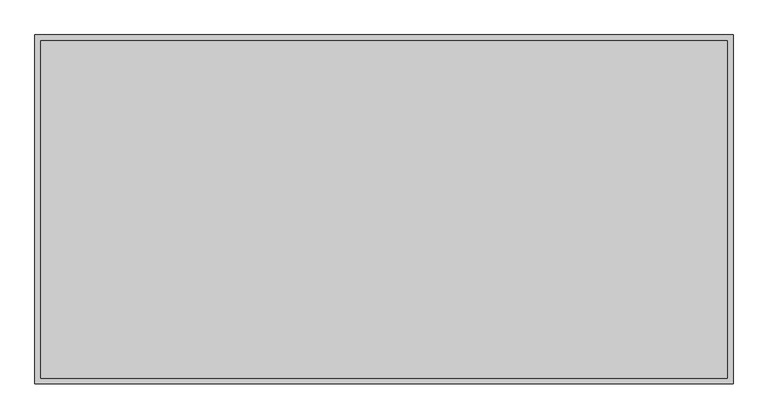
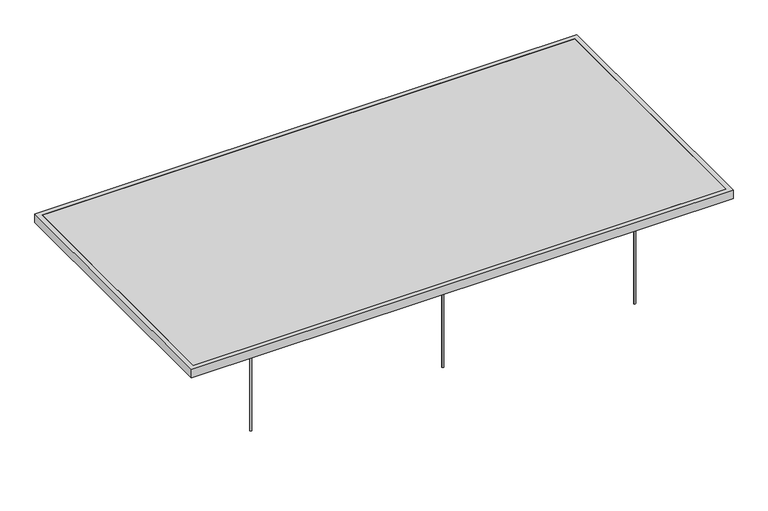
"""IFC4 building model written with IfcOpenShell, lengths in millimetres: proxy geometry, OWA Selecta Metal : Selecta Metal grande."""

import ifcopenshell
import ifcopenshell.guid

model = None  # the IFC model being written
_history = None  # IfcOwnerHistory: only IFC2X3 demands one
_inside = {}  # id of a spatial element -> (the spatial element, [elements in it])
_under = {}  # id of a project, library or spatial element -> (it, [spatial elements below it])
_declared = {}  # id of a project -> (the project, [libraries it declares])
_typed = {}  # id of a type object -> (the type object, [elements of that type])
_made_of = {}  # id of a material, layer set ... -> (it, [elements and type objects made of it])


def new_model(schema):
    """Start an empty IFC model of exactly this schema.

    Asked for "IFC4X3", IfcOpenShell would pick the latest addendum, in which some entities
    have other attributes; the version numbers below select the first issue.
    IFC2X3 requires an IfcOwnerHistory on every rooted entity: one is made here for all.
    """
    global model, _history
    if schema == "IFC4X3":
        model = ifcopenshell.file(schema_version=(4, 3, 0, 0))
    else:
        model = ifcopenshell.file(schema=schema)
    _inside.clear()
    _under.clear()
    _declared.clear()
    _typed.clear()
    _made_of.clear()
    _history = None
    if model.schema == "IFC2X3":
        org = make("IfcOrganization", Name="unknown")
        user = make(
            "IfcPersonAndOrganization",
            ThePerson=make("IfcPerson", FamilyName="unknown"),
            TheOrganization=org,
        )
        app = make(
            "IfcApplication",
            ApplicationDeveloper=org,
            Version="unknown",
            ApplicationFullName="unknown",
            ApplicationIdentifier="unknown",
        )
        _history = make(
            "IfcOwnerHistory",
            OwningUser=user,
            OwningApplication=app,
            ChangeAction="ADDED",
            CreationDate=0,
        )
    return model


def make(cls, **values):
    """One entity of the class cls with the attributes given. An attribute that is None is left unset."""
    return model.create_entity(
        cls, **{name: value for name, value in values.items() if value is not None}
    )


def rooted(cls, **values):
    """An entity with a GlobalId (a new one), such as an element, a storey or a relation."""
    return make(cls, GlobalId=ifcopenshell.guid.new(), OwnerHistory=_history, **values)


def si_unit(unit_type, name, prefix=None):
    """IfcSIUnit, for example si_unit("LENGTHUNIT", "METRE", prefix="MILLI")."""
    return make("IfcSIUnit", UnitType=unit_type, Prefix=prefix, Name=name)


def assignment(units):
    """IfcUnitAssignment: the units of a project."""
    return None if units is None else make("IfcUnitAssignment", Units=units)


def point(xyz):
    """IfcCartesianPoint."""
    return None if xyz is None else make("IfcCartesianPoint", Coordinates=xyz)


def direction(xyz):
    """IfcDirection."""
    return None if xyz is None else make("IfcDirection", DirectionRatios=xyz)


def frame(location, z_axis=None, x_axis=None):
    """IfcAxis2Placement3D, a coordinate frame: its origin and axes. An axis left out is left unset."""
    return make(
        "IfcAxis2Placement3D",
        Location=point(location),
        Axis=direction(z_axis),
        RefDirection=direction(x_axis),
    )


def frame_2d(location, x_axis=None):
    """IfcAxis2Placement2D, a coordinate frame in the plane: its origin and x axis."""
    return make(
        "IfcAxis2Placement2D", Location=point(location), RefDirection=direction(x_axis)
    )


def origin():
    """The frame at (0, 0, 0) with its axes left unset."""
    return frame((0.0, 0.0, 0.0))


def origin_with_axes():
    """The frame at (0, 0, 0) with the z axis (0, 0, 1) and the x axis (1, 0, 0) written out."""
    return frame((0.0, 0.0, 0.0), z_axis=(0.0, 0.0, 1.0), x_axis=(1.0, 0.0, 0.0))


def place(relative_to, where):
    """IfcLocalPlacement: puts the frame where relative to a parent placement (None: the world)."""
    return make(
        "IfcLocalPlacement", PlacementRelTo=relative_to, RelativePlacement=where
    )


def context(
    kind, dimensions, precision=None, world=None, true_north=None, identifier=None
):
    """IfcGeometricRepresentationContext, for example the 3D "Model" context."""
    return make(
        "IfcGeometricRepresentationContext",
        ContextIdentifier=identifier,
        ContextType=kind,
        CoordinateSpaceDimension=dimensions,
        Precision=precision,
        WorldCoordinateSystem=world,
        TrueNorth=true_north,
    )


def project(units=None, contexts=None):
    """IfcProject with its units and contexts."""
    return rooted(
        "IfcProject",
        Name="project",
        RepresentationContexts=contexts,
        UnitsInContext=assignment(units),
    )


def spatial(cls, under=None, at=None, **own):
    """A site, building, storey or space (cls), placed at a placement, below another one or the project."""
    s = rooted(cls, ObjectPlacement=at, **own)
    if under is not None:
        _under.setdefault(under.id(), (under, []))[1].append(s)
    return s


def polyline(points):
    """IfcPolyline through the points."""
    return make("IfcPolyline", Points=[point(p) for p in points])


def circle_curve(where, radius):
    """IfcCircle in the frame where."""
    return make("IfcCircle", Position=where, Radius=radius)


def trimmed(basis, trim1, trim2, sense, master):
    """IfcTrimmedCurve: the piece of a basis curve between two trims."""
    return make(
        "IfcTrimmedCurve",
        BasisCurve=basis,
        Trim1=trim1,
        Trim2=trim2,
        SenseAgreement=sense,
        MasterRepresentation=master,
    )


def segment(curve, same_sense, transition):
    """IfcCompositeCurveSegment."""
    return make(
        "IfcCompositeCurveSegment",
        Transition=transition,
        SameSense=same_sense,
        ParentCurve=curve,
    )


def composite_curve(segments, self_intersect=None):
    """IfcCompositeCurve: segments joined end to end."""
    return make("IfcCompositeCurve", Segments=segments, SelfIntersect=self_intersect)


def outline(outer, holes=None, kind="AREA"):
    """IfcArbitraryClosedProfileDef: a profile drawn as a closed curve; with holes, ...WithVoids."""
    if holes is None:
        return make("IfcArbitraryClosedProfileDef", ProfileType=kind, OuterCurve=outer)
    return make(
        "IfcArbitraryProfileDefWithVoids",
        ProfileType=kind,
        OuterCurve=outer,
        InnerCurves=holes,
    )


def extrude(swept, where, along, depth):
    """IfcExtrudedAreaSolid: the profile swept, set in the frame where, extruded along a direction by depth."""
    return make(
        "IfcExtrudedAreaSolid",
        SweptArea=swept,
        Position=where,
        ExtrudedDirection=direction(along),
        Depth=depth,
    )


def shape(context_of_items, identifier, shape_type, items):
    """IfcShapeRepresentation: the items that make up one representation, for example the "Body"."""
    return make(
        "IfcShapeRepresentation",
        ContextOfItems=context_of_items,
        RepresentationIdentifier=identifier,
        RepresentationType=shape_type,
        Items=items,
    )


def source(mapping_origin, context_of_items, identifier, shape_type, items):
    """IfcRepresentationMap: a shape defined once, which mapped items show again and again."""
    return make(
        "IfcRepresentationMap",
        MappingOrigin=mapping_origin,
        MappedRepresentation=shape(context_of_items, identifier, shape_type, items),
    )


def transform(
    local_origin,
    x_axis=None,
    y_axis=None,
    z_axis=None,
    scale=None,
    scale2=None,
    scale3=None,
    uniform=True,
):
    """IfcCartesianTransformationOperator3D, or its non-uniform kind. x_axis, y_axis, z_axis: its Axis1, 2, 3."""
    if uniform:
        return make(
            "IfcCartesianTransformationOperator3D",
            Axis1=direction(x_axis),
            Axis2=direction(y_axis),
            LocalOrigin=point(local_origin),
            Scale=scale,
            Axis3=direction(z_axis),
        )
    return make(
        "IfcCartesianTransformationOperator3DnonUniform",
        Axis1=direction(x_axis),
        Axis2=direction(y_axis),
        LocalOrigin=point(local_origin),
        Scale=scale,
        Axis3=direction(z_axis),
        Scale2=scale2,
        Scale3=scale3,
    )


def mapped(mapping_source, mapping_target):
    """IfcMappedItem: shows the shape of a source again, moved by a transform."""
    return make(
        "IfcMappedItem", MappingSource=mapping_source, MappingTarget=mapping_target
    )


def made_of(thing, what):
    """Note that an element or type object is made of a material, layer set ...; save() writes the relation."""
    if what is not None:
        _made_of.setdefault(what.id(), (what, []))[1].append(thing)
    return thing


def element(
    cls,
    number,
    at=None,
    inside=None,
    cuts=None,
    type_object=None,
    material=None,
    context=None,
    identifier="Body",
    shape_type=None,
    held_by="IfcProductDefinitionShape",
    body=None,
    shapes=None,
    **own,
):
    """One element of the class cls, such as IfcWall. Its Tag is "e" and its number.

    at: its placement. inside: the storey or other place that contains it. cuts: it is an
    opening in that element (IfcRelVoidsElement). A single representation is given by context,
    identifier, shape_type and body (its items); several are given by shapes. held_by: the class
    of the entity that holds the representations. save() writes the other relations.
    """
    e = rooted(cls, Tag="e%d" % number, ObjectPlacement=at, **own)
    if body is not None:
        shapes = [shape(context, identifier, shape_type, body)]
    if shapes is not None:
        e.Representation = make(held_by, Representations=shapes)
    if inside is not None:
        _inside.setdefault(inside.id(), (inside, []))[1].append(e)
    if cuts is not None:
        rooted(
            "IfcRelVoidsElement", RelatingBuildingElement=cuts, RelatedOpeningElement=e
        )
    if type_object is not None:
        _typed.setdefault(type_object.id(), (type_object, []))[1].append(e)
    return made_of(e, material)


def aggregate(whole, parts):
    """IfcRelAggregates: a whole, such as a stair, and the parts it consists of."""
    return rooted("IfcRelAggregates", RelatingObject=whole, RelatedObjects=parts)


def save(model, path):
    """Write the relations noted so far, then the file.

    IfcRelAggregates (storeys below a building ...), IfcRelContainedInSpatialStructure (elements
    in a storey), IfcRelDefinesByType, IfcRelAssociatesMaterial and IfcRelDeclares: one each for
    every whole, place, type object, material and project.
    """
    for whole, parts in _under.values():
        aggregate(whole, parts)
    for where, things in _inside.values():
        rooted(
            "IfcRelContainedInSpatialStructure",
            RelatedElements=things,
            RelatingStructure=where,
        )
    for kind, things in _typed.values():
        rooted("IfcRelDefinesByType", RelatedObjects=things, RelatingType=kind)
    for what, things in _made_of.values():
        rooted("IfcRelAssociatesMaterial", RelatedObjects=things, RelatingMaterial=what)
    for by, libraries in _declared.values():
        rooted("IfcRelDeclares", RelatingContext=by, RelatedDefinitions=libraries)
    model.write(path)


def specialty_equipment_a36aa70e(model_context):
    return source(origin(), model_context, "Body", "SweptSolid", [
        extrude(outline(polyline([(-439.2735027, 450.0), (-436.3867513, 455.0), (-430.6132487, 455.0), (-427.7264973, 450.0), (-430.6132487, 445.0), (-436.3867513, 445.0), (-439.2735027, 450.0)]), holes=[composite_curve([segment(trimmed(circle_curve(frame_2d((-433.5, 450.0)), 3.85), [point((-437.35, 450.0))], [point((-429.65, 450.0))], True, "CARTESIAN"), True, "CONTINUOUS"), segment(trimmed(circle_curve(frame_2d((-433.5, 450.0)), 3.85), [point((-429.65, 450.0))], [point((-437.35, 450.0))], True, "CARTESIAN"), True, "CONTINUOUS")], self_intersect=False)]), frame((0.0, 0.0, 455.0), z_axis=(0.0, 0.0, 1.0), x_axis=(1.0, 0.0, 0.0)), (0.0, 0.0, 1.0), 5.0),
        extrude(outline(composite_curve([segment(trimmed(circle_curve(frame_2d((-433.5, 450.0)), 3.85), [point((-437.35, 450.0))], [point((-429.65, 450.0))], False, "CARTESIAN"), True, "CONTINUOUS"), segment(trimmed(circle_curve(frame_2d((-433.5, 450.0)), 3.85), [point((-429.65, 450.0))], [point((-437.35, 450.0))], False, "CARTESIAN"), True, "CONTINUOUS")], self_intersect=False)), origin_with_axes(), (0.0, 0.0, 1.0), 460.0),
        extrude(outline(polyline([(-439.2735027, -450.0), (-436.3867513, -445.0), (-430.6132487, -445.0), (-427.7264973, -450.0), (-430.6132487, -455.0), (-436.3867513, -455.0), (-439.2735027, -450.0)]), holes=[composite_curve([segment(trimmed(circle_curve(frame_2d((-433.5, -450.0)), 3.85), [point((-437.35, -450.0))], [point((-429.65, -450.0))], True, "CARTESIAN"), True, "CONTINUOUS"), segment(trimmed(circle_curve(frame_2d((-433.5, -450.0)), 3.85), [point((-429.65, -450.0))], [point((-437.35, -450.0))], True, "CARTESIAN"), True, "CONTINUOUS")], self_intersect=False)]), frame((0.0, 0.0, 455.0), z_axis=(0.0, 0.0, 1.0), x_axis=(1.0, 0.0, 0.0)), (0.0, 0.0, 1.0), 5.0),
        extrude(outline(composite_curve([segment(trimmed(circle_curve(frame_2d((-433.5, -450.0)), 3.85), [point((-437.35, -450.0))], [point((-429.65, -450.0))], False, "CARTESIAN"), True, "CONTINUOUS"), segment(trimmed(circle_curve(frame_2d((-433.5, -450.0)), 3.85), [point((-429.65, -450.0))], [point((-437.35, -450.0))], False, "CARTESIAN"), True, "CONTINUOUS")], self_intersect=False)), origin_with_axes(), (0.0, 0.0, 1.0), 460.0),
        extrude(outline(polyline([(-1289.2735027, 450.0), (-1286.3867513, 455.0), (-1280.6132487, 455.0), (-1277.7264973, 450.0), (-1280.6132487, 445.0), (-1286.3867513, 445.0), (-1289.2735027, 450.0)]), holes=[composite_curve([segment(trimmed(circle_curve(frame_2d((-1283.5, 450.0)), 3.85), [point((-1287.35, 450.0))], [point((-1279.65, 450.0))], True, "CARTESIAN"), True, "CONTINUOUS"), segment(trimmed(circle_curve(frame_2d((-1283.5, 450.0)), 3.85), [point((-1279.65, 450.0))], [point((-1287.35, 450.0))], True, "CARTESIAN"), True, "CONTINUOUS")], self_intersect=False)]), frame((0.0, 0.0, 455.0), z_axis=(0.0, 0.0, 1.0), x_axis=(1.0, 0.0, 0.0)), (0.0, 0.0, 1.0), 5.0),
        extrude(outline(composite_curve([segment(trimmed(circle_curve(frame_2d((-1283.5, 450.0)), 3.85), [point((-1287.35, 450.0))], [point((-1279.65, 450.0))], False, "CARTESIAN"), True, "CONTINUOUS"), segment(trimmed(circle_curve(frame_2d((-1283.5, 450.0)), 3.85), [point((-1279.65, 450.0))], [point((-1287.35, 450.0))], False, "CARTESIAN"), True, "CONTINUOUS")], self_intersect=False)), origin_with_axes(), (0.0, 0.0, 1.0), 460.0),
        extrude(outline(polyline([(422.2735027, 450.0), (419.3867513, 445.0), (413.6132487, 445.0), (410.7264973, 450.0), (413.6132487, 455.0), (419.3867513, 455.0), (422.2735027, 450.0)]), holes=[composite_curve([segment(trimmed(circle_curve(frame_2d((416.5, 450.0)), 3.85), [point((420.35, 450.0))], [point((412.65, 450.0))], True, "CARTESIAN"), True, "CONTINUOUS"), segment(trimmed(circle_curve(frame_2d((416.5, 450.0)), 3.85), [point((412.65, 450.0))], [point((420.35, 450.0))], True, "CARTESIAN"), True, "CONTINUOUS")], self_intersect=False)]), frame((0.0, 0.0, 455.0), z_axis=(0.0, 0.0, 1.0), x_axis=(1.0, 0.0, 0.0)), (0.0, 0.0, 1.0), 5.0),
        extrude(outline(composite_curve([segment(trimmed(circle_curve(frame_2d((416.5, 450.0)), 3.85), [point((420.35, 450.0))], [point((412.65, 450.0))], False, "CARTESIAN"), True, "CONTINUOUS"), segment(trimmed(circle_curve(frame_2d((416.5, 450.0)), 3.85), [point((412.65, 450.0))], [point((420.35, 450.0))], False, "CARTESIAN"), True, "CONTINUOUS")], self_intersect=False)), origin_with_axes(), (0.0, 0.0, 1.0), 460.0),
        extrude(outline(polyline([(422.2735027, -450.0), (419.3867513, -455.0), (413.6132487, -455.0), (410.7264973, -450.0), (413.6132487, -445.0), (419.3867513, -445.0), (422.2735027, -450.0)]), holes=[composite_curve([segment(trimmed(circle_curve(frame_2d((416.5, -450.0)), 3.85), [point((420.35, -450.0))], [point((412.65, -450.0))], True, "CARTESIAN"), True, "CONTINUOUS"), segment(trimmed(circle_curve(frame_2d((416.5, -450.0)), 3.85), [point((412.65, -450.0))], [point((420.35, -450.0))], True, "CARTESIAN"), True, "CONTINUOUS")], self_intersect=False)]), frame((0.0, 0.0, 455.0), z_axis=(0.0, 0.0, 1.0), x_axis=(1.0, 0.0, 0.0)), (0.0, 0.0, 1.0), 5.0),
        extrude(outline(composite_curve([segment(trimmed(circle_curve(frame_2d((416.5, -450.0)), 3.85), [point((420.35, -450.0))], [point((412.65, -450.0))], False, "CARTESIAN"), True, "CONTINUOUS"), segment(trimmed(circle_curve(frame_2d((416.5, -450.0)), 3.85), [point((412.65, -450.0))], [point((420.35, -450.0))], False, "CARTESIAN"), True, "CONTINUOUS")], self_intersect=False)), origin_with_axes(), (0.0, 0.0, 1.0), 460.0),
        extrude(outline(polyline([(-1289.2735027, -450.0), (-1286.3867513, -445.0), (-1280.6132487, -445.0), (-1277.7264973, -450.0), (-1280.6132487, -455.0), (-1286.3867513, -455.0), (-1289.2735027, -450.0)]), holes=[composite_curve([segment(trimmed(circle_curve(frame_2d((-1283.5, -450.0)), 3.85), [point((-1287.35, -450.0))], [point((-1279.65, -450.0))], True, "CARTESIAN"), True, "CONTINUOUS"), segment(trimmed(circle_curve(frame_2d((-1283.5, -450.0)), 3.85), [point((-1279.65, -450.0))], [point((-1287.35, -450.0))], True, "CARTESIAN"), True, "CONTINUOUS")], self_intersect=False)]), frame((0.0, 0.0, 455.0), z_axis=(0.0, 0.0, 1.0), x_axis=(1.0, 0.0, 0.0)), (0.0, 0.0, 1.0), 5.0),
        extrude(outline(composite_curve([segment(trimmed(circle_curve(frame_2d((-1283.5, -450.0)), 3.85), [point((-1287.35, -450.0))], [point((-1279.65, -450.0))], False, "CARTESIAN"), True, "CONTINUOUS"), segment(trimmed(circle_curve(frame_2d((-1283.5, -450.0)), 3.85), [point((-1279.65, -450.0))], [point((-1287.35, -450.0))], False, "CARTESIAN"), True, "CONTINUOUS")], self_intersect=False)), origin_with_axes(), (0.0, 0.0, 1.0), 460.0),
        extrude(outline(polyline([(-413.5, 580.0), (-413.5, -580.0), (-453.5, -580.0), (-453.5, 580.0), (-413.5, 580.0)])), frame((0.0, 0.0, 460.0), z_axis=(0.0, 0.0, 1.0), x_axis=(1.0, 0.0, 0.0)), (0.0, 0.0, 1.0), 20.0),
        extrude(outline(polyline([(-1263.5, 580.0), (-1263.5, -580.0), (-1303.5, -580.0), (-1303.5, 580.0), (-1263.5, 580.0)])), frame((0.0, 0.0, 460.0), z_axis=(0.0, 0.0, 1.0), x_axis=(1.0, 0.0, 0.0)), (0.0, 0.0, 1.0), 20.0),
        extrude(outline(polyline([(396.5, 580.0), (436.5, 580.0), (436.5, -580.0), (396.5, -580.0), (396.5, 580.0)])), frame((0.0, 0.0, 460.0), z_axis=(0.0, 0.0, 1.0), x_axis=(1.0, 0.0, 0.0)), (0.0, 0.0, 1.0), 20.0),
        extrude(outline(polyline([(766.5, 600.0), (766.5, -600.0), (-1633.5, -600.0), (-1633.5, 600.0), (766.5, 600.0)]), holes=[polyline([(-1613.5, -580.0), (746.5, -580.0), (746.5, 580.0), (-1613.5, 580.0), (-1613.5, -580.0)])]), frame((0.0, 0.0, 460.0), z_axis=(0.0, 0.0, 1.0), x_axis=(1.0, 0.0, 0.0)), (0.0, 0.0, 1.0), 40.0),
        extrude(outline(polyline([(746.5, 580.0), (746.5, -580.0), (-1613.5, -580.0), (-1613.5, 580.0), (746.5, 580.0)])), frame((0.0, 0.0, 490.0), z_axis=(0.0, 0.0, 1.0), x_axis=(1.0, 0.0, 0.0)), (0.0, 0.0, 1.0), 10.0),
    ])


if __name__ == "__main__":
    model = new_model("IFC4")
    model_context = context("Model", 3, world=origin())
    ifc_project = project(units=[si_unit("LENGTHUNIT", "METRE", prefix="MILLI")], contexts=[model_context])
    site = spatial("IfcSite", under=ifc_project)
    building = spatial("IfcBuilding", under=site)
    placement = place(None, origin())
    specialty_equipment_shape = specialty_equipment_a36aa70e(model_context)
    element("IfcBuildingElementProxy", 1, Name="OWA Selecta Metal : Selecta Metal grande", ObjectType="OWA Selecta Metal : Selecta Metal grande", at=placement, inside=building, context=model_context, shape_type="MappedRepresentation", body=[
        mapped(specialty_equipment_shape, transform((0.0, 0.0, 0.0), x_axis=(1.0, 0.0, 0.0), y_axis=(0.0, 1.0, 0.0), z_axis=(0.0, 0.0, 1.0))),
    ])
    save(model, "model.ifc")
